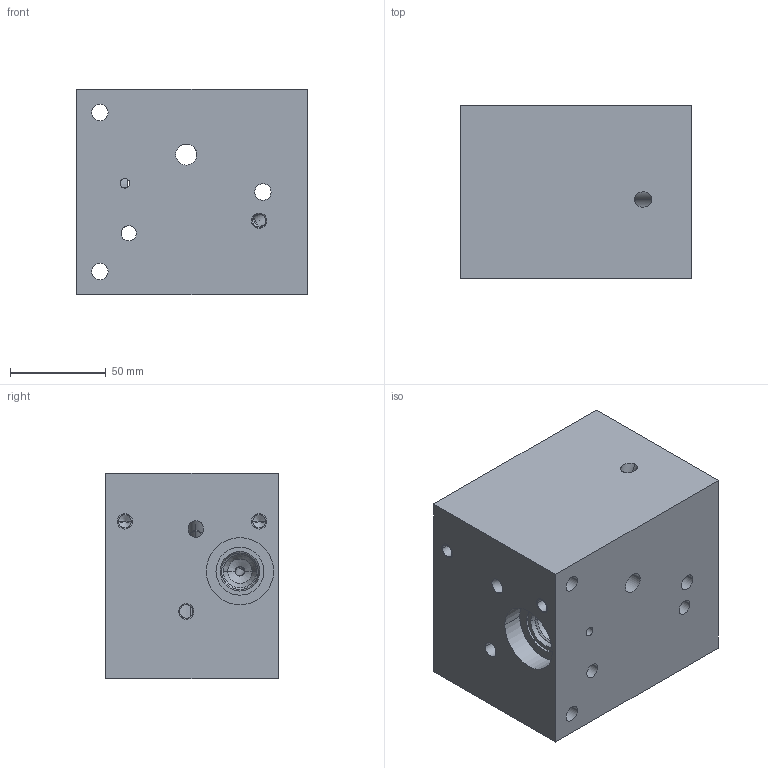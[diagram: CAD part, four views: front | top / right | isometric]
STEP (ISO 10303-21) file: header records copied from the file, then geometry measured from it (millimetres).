
FILE_DESCRIPTION((''),'2;1');
FILE_NAME('413059','2025-10-14T07:39:17',('PoolNonAdmin13778347'),(''),'CREO PARAMETRIC BY PTC INC, 2025183','CREO PARAMETRIC BY PTC INC, 2025183','');
FILE_SCHEMA(('AUTOMOTIVE_DESIGN { 1 0 10303 214 1 1 1 1 }'));
Products named in the file (1): 413059
Bounding box: 120 x 90 x 107 mm (x, y, z)
Volume: 1043096.7 mm3; surface area: 114850.6 mm2
Topology: 1 solids, 15 shells, 279 faces, 1012 edges, 753 vertices
Faces by surface type: cylinder 149, cone 101, plane 29
Entity records: 151743 total; most frequent: CARTESIAN_POINT 114223, POLYLINE 22699, DIRECTION 1986, ORIENTED_EDGE 1364, PRESENTATION_STYLE_ASSIGNMENT 1177, CURVE_STYLE 1135, STYLED_ITEM 1074, AXIS2_PLACEMENT_3D 717
